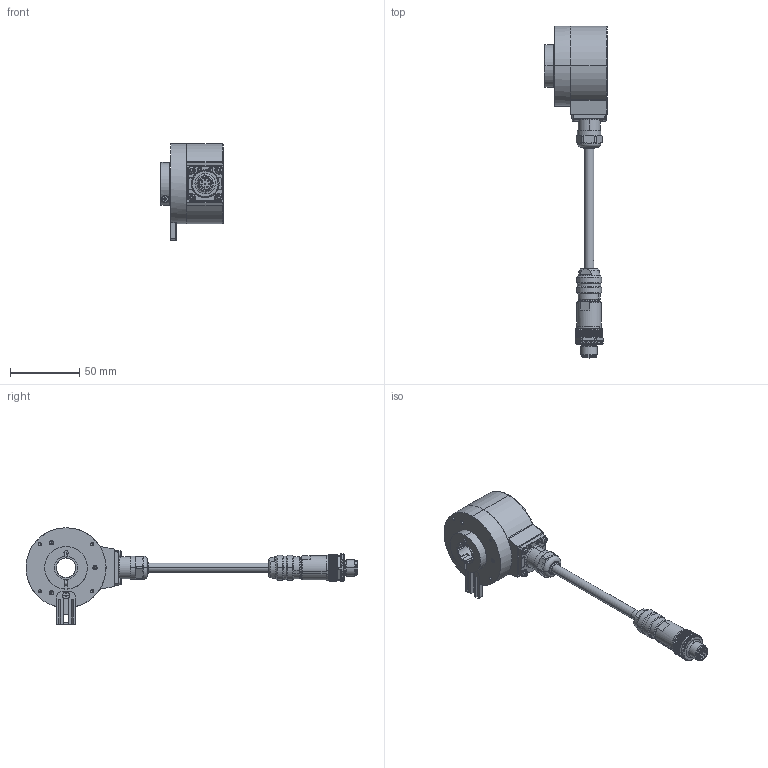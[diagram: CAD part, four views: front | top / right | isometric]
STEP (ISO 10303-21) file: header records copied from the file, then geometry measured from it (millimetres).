
FILE_DESCRIPTION (( 'STEP AP203' ), '1' );
FILE_NAME ('K58I.OXX.XXXXX.XH11514.6XR12.XXXX.step', '2025-12-08T12:45:11', ( '' ), ( '' ), 'SwSTEP 2.0', 'SolidWorks 2021', '' );
FILE_SCHEMA (( 'CONFIG_CONTROL_DESIGN' ));
Length unit declared in the file: millimetre
Products named in the file (1): K58I.OXX.XXXXX.XH11514.6XR12.XXXX
Bounding box: 46 x 240.49 x 69.9 mm (x, y, z)
Volume: 127227.8 mm3; surface area: 43876.7 mm2
Topology: 18 solids, 18 shells, 1601 faces, 3959 edges, 2419 vertices
Faces by surface type: plane 587, cylinder 570, cone 318, bspline 54, torus 40, sphere 32
Entity records: 50225 total; most frequent: CARTESIAN_POINT 13313, ORIENTED_EDGE 7820, DIRECTION 7652, EDGE_CURVE 3910, AXIS2_PLACEMENT_3D 3034, VERTEX_POINT 2401, EDGE_LOOP 1685, FACE_OUTER_BOUND 1601
